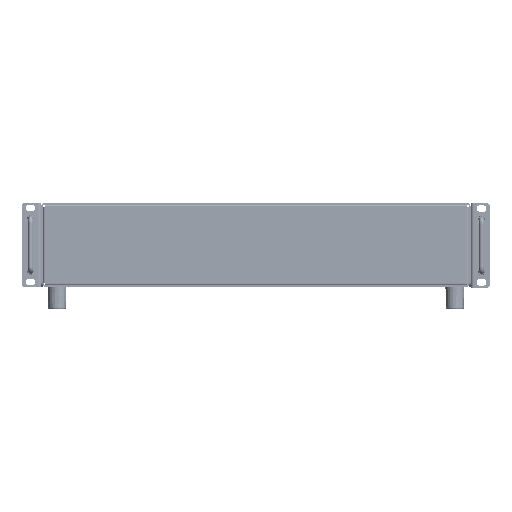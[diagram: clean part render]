
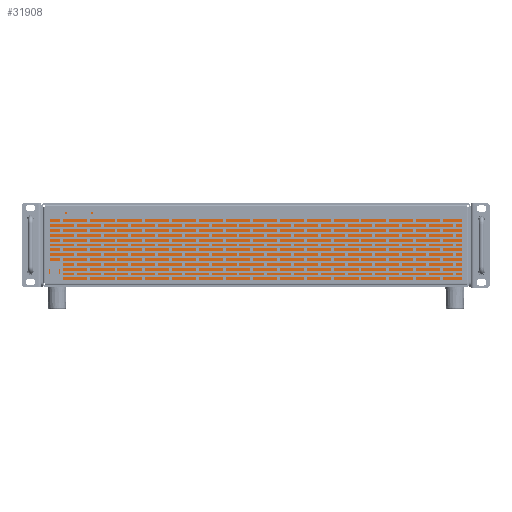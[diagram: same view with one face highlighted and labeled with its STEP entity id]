
A CAD part, front view. The second image highlights one B-rep face of the part: STEP entity #31908.
In plain terms, the highlighted planar face has unit normal (0, -1, 0).
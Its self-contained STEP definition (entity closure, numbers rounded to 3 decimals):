
#31908=ADVANCED_FACE('',(#67418),#67419,.F.);
#67418=FACE_OUTER_BOUND('',#117870,.T.);
#67419=PLANE('',#117871);
#117870=EDGE_LOOP('',(#213134,#213135,#213136,#213137));
#117871=AXIS2_PLACEMENT_3D('',#213138,#213139,#213140);
#213134=ORIENTED_EDGE('',*,*,#262121,.T.);
#213135=ORIENTED_EDGE('',*,*,#262117,.F.);
#213136=ORIENTED_EDGE('',*,*,#262122,.F.);
#213137=ORIENTED_EDGE('',*,*,#262114,.F.);
#213138=CARTESIAN_POINT('',(215.934,10.,43.25));
#213139=DIRECTION('',(0.0,1.0,0.0));
#213140=DIRECTION('',(0.0,0.0,1.0));
#262114=EDGE_CURVE('',#319206,#319201,#319208,.T.);
#262117=EDGE_CURVE('',#319211,#319213,#319214,.F.);
#262121=EDGE_CURVE('',#319206,#319213,#319219,.T.);
#262122=EDGE_CURVE('',#319201,#319211,#319220,.F.);
#319201=VERTEX_POINT('',#402504);
#319206=VERTEX_POINT('',#402511);
#319208=LINE('',#402514,#402515);
#319211=VERTEX_POINT('',#402518);
#319213=VERTEX_POINT('',#402521);
#319214=LINE('',#402522,#402523);
#319219=LINE('',#402530,#402531);
#319220=LINE('',#402532,#402533);
#402504=CARTESIAN_POINT('',(433.384,10.,83.5));
#402511=CARTESIAN_POINT('',(-1.516,10.,83.5));
#402514=CARTESIAN_POINT('',(215.934,10.,83.5));
#402515=VECTOR('',#442626,1.0);
#402518=CARTESIAN_POINT('',(433.384,10.,3.));
#402521=CARTESIAN_POINT('',(-1.516,10.,3.));
#402522=CARTESIAN_POINT('',(215.934,10.,3.));
#402523=VECTOR('',#442628,1.0);
#402530=CARTESIAN_POINT('',(-1.516,10.,43.25));
#402531=VECTOR('',#442631,1.0);
#402532=CARTESIAN_POINT('',(433.384,10.,43.25));
#402533=VECTOR('',#442632,1.0);
#442626=DIRECTION('',(1.0,0.0,0.0));
#442628=DIRECTION('',(1.0,0.0,0.0));
#442631=DIRECTION('',(0.0,0.0,-1.0));
#442632=DIRECTION('',(0.0,0.0,1.0));
